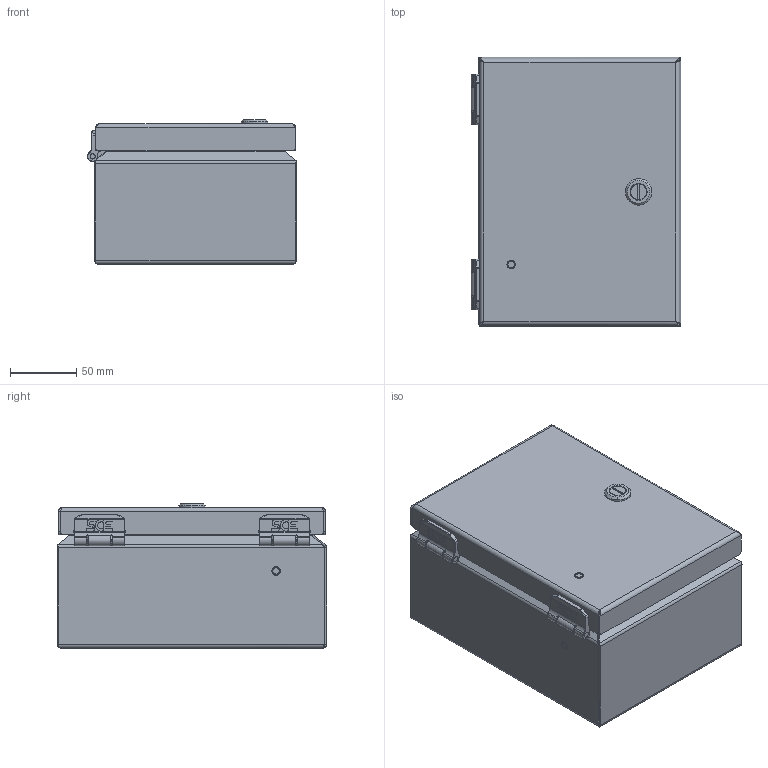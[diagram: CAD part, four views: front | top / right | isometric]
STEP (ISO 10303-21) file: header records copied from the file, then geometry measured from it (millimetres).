
FILE_DESCRIPTION((''),'2;1');
FILE_NAME('MODEL-059_ASM','2025-08-15T15:49:57',('joshi'),('SAGINAW CONTROL & ENGINEERING'),'CREO PARAMETRIC BY PTC INC, 2021284','CREO PARAMETRIC BY PTC INC, 2021284','');
FILE_SCHEMA(('AUTOMOTIVE_DESIGN { 1 0 10303 214 1 1 1 1 }'));
Length unit declared in the file: inch
Products named in the file (25): MODEL-059-BDY; MODEL-059-DR; 112643-BOX-LEAF; 112643-BOX-LEAF-STUD; 112643-BOX_ASM; 112643-DOOR-LEAF; 112643-DOOR-LEAF-STUD; 112643-DOOR_ASM; 112643-PIN; 112643_ASM; 113152; 100097; 100012; 112987_SHAFT; 112987_SCREW; 112987_CAM; 112987_INSERT; 112987_NUT; 112987_ASM; MODEL-059-GSKT; 120706; CH-ELJ_SUBPANEL; 102479; CH-ELJ_SUBPANEL-SUBASSEMBLY_ASM; MODEL-059_ASM
Assembly tree (35 placements, depth 4):
  MODEL-059_ASM
    MODEL-059-BDY
    MODEL-059-DR
    112643_ASM  x2
      112643-BOX_ASM
        112643-BOX-LEAF
        112643-BOX-LEAF-STUD
      112643-DOOR_ASM
        112643-DOOR-LEAF
        112643-DOOR-LEAF-STUD
      112643-PIN
    113152  x4
    100097  x2
    100012  x4
    112987_ASM
      112987_SHAFT
      112987_SCREW
      112987_CAM
      112987_INSERT
      112987_NUT
    MODEL-059-GSKT
    120706
    CH-ELJ_SUBPANEL-SUBASSEMBLY_ASM
      CH-ELJ_SUBPANEL
      102479  x4
Bounding box: 158 x 203.2 x 109.39 mm (x, y, z)
Volume: 306185 mm3; surface area: 374884.6 mm2
Topology: 33 solids, 35 shells, 3292 faces, 8479 edges, 5213 vertices
Faces by surface type: plane 1028, cylinder 925, bspline 874, cone 341, torus 114, sphere 10
Entity records: 117149 total; most frequent: CARTESIAN_POINT 60051, ORIENTED_EDGE 8818, DIRECTION 7193, PRESENTATION_STYLE_ASSIGNMENT 4643, STYLED_ITEM 4633, CURVE_STYLE 4409, EDGE_CURVE 4409, VERTEX_POINT 2751
